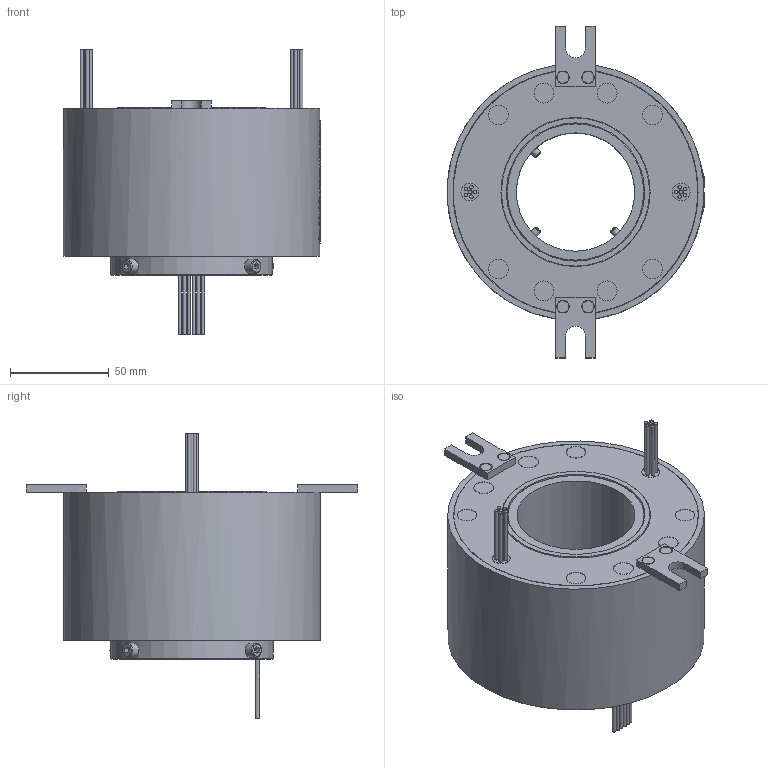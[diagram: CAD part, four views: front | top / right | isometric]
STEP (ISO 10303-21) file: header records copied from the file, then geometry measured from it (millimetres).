
FILE_DESCRIPTION(/* description */ (''),/* implementation_level */ '2;1');
FILE_NAME(/* name */ 'YD60130-1210-3D模型.stp',/* time_stamp */ '2025-09-04T13:41:00+08:00',/* author */ (''),/* organization */ (''),/* preprocessor_version */ 'ST-DEVELOPER v16.7',/* originating_system */ 'SIEMENS PLM Software NX 12.0',/* authorisation */ '');
FILE_SCHEMA (('AUTOMOTIVE_DESIGN { 1 0 10303 214 3 1 1 1 }'));
Length unit declared in the file: millimetre
Products named in the file (1): Admi82E4D60F1jnm
Bounding box: 130.5 x 168 x 144.2 mm (x, y, z)
Volume: 812461.9 mm3; surface area: 78377.5 mm2
Topology: 1 solids, 5 shells, 928 faces, 2448 edges, 1629 vertices
Faces by surface type: extrusion 452, plane 339, cylinder 86, bspline 33, cone 14, torus 4
Full cylindrical faces by diameter (mm): 1.8 x18, 3 x4, 3.4 x1, 3.5 x4, 4 x7, 6 x4, 7 x4, 9 x2, 10 x8, 59.9 x1, 70 x1, 75 x1, 75.5 x1, 82 x1, 123.8 x2, 124 x2, 130 x1
Entity records: 36301 total; most frequent: CARTESIAN_POINT 17025, ORIENTED_EDGE 4680, EDGE_CURVE 2340, DIRECTION 2236, B_SPLINE_CURVE_WITH_KNOTS 2203, VERTEX_POINT 1601, EDGE_LOOP 1121, ADVANCED_FACE 928
